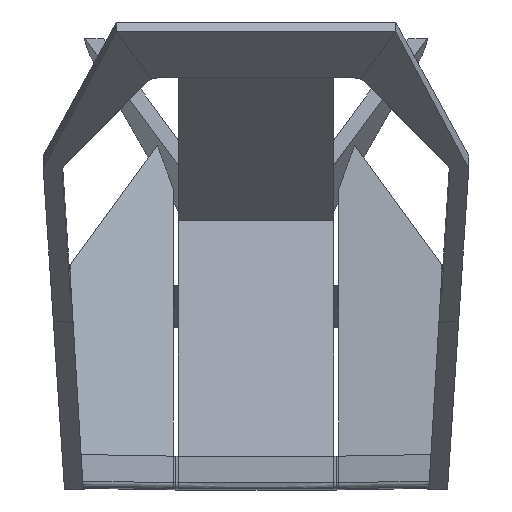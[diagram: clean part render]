
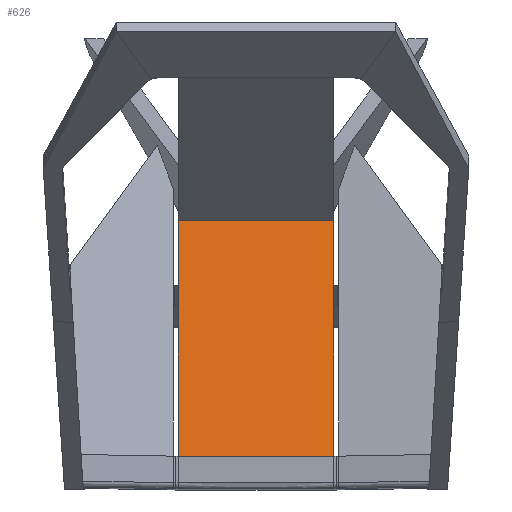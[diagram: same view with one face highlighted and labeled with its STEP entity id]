
A CAD part, top view. The second image highlights one B-rep face of the part: STEP entity #626.
In plain terms, the highlighted free-form (B-spline) face has degree [1, 1] with [2, 2] control points.
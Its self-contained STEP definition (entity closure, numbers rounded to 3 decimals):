
#626=ADVANCED_FACE('',(#749),#5292,.T.);
#749=FACE_OUTER_BOUND('',#872,.T.);
#872=EDGE_LOOP('',(#1412,#1413,#1414,#1415));
#1412=ORIENTED_EDGE('',*,*,#3620,.T.);
#1413=ORIENTED_EDGE('',*,*,#3621,.T.);
#1414=ORIENTED_EDGE('',*,*,#3622,.T.);
#1415=ORIENTED_EDGE('',*,*,#3623,.T.);
#1964=PCURVE('',#5292,#2516);
#1965=PCURVE('',#5292,#2517);
#1966=PCURVE('',#5292,#2518);
#1967=PCURVE('',#5292,#2519);
#2516=DEFINITIONAL_REPRESENTATION('',(#4606),#13068);
#2517=DEFINITIONAL_REPRESENTATION('',(#4608),#13068);
#2518=DEFINITIONAL_REPRESENTATION('',(#4610),#13068);
#2519=DEFINITIONAL_REPRESENTATION('',(#4612),#13068);
#3068=SURFACE_CURVE('',#4605,(#1964),.PCURVE_S1.);
#3069=SURFACE_CURVE('',#4607,(#1965),.PCURVE_S1.);
#3070=SURFACE_CURVE('',#4609,(#1966),.PCURVE_S1.);
#3071=SURFACE_CURVE('',#4611,(#1967),.PCURVE_S1.);
#3620=EDGE_CURVE('',#5176,#5175,#3068,.T.);
#3621=EDGE_CURVE('',#5175,#5173,#3069,.T.);
#3622=EDGE_CURVE('',#5173,#5174,#3070,.T.);
#3623=EDGE_CURVE('',#5174,#5176,#3071,.T.);
#4605=B_SPLINE_CURVE_WITH_KNOTS('',3,(#12950,#12951,#12952,#12953),
 .UNSPECIFIED.,.F.,.F.,(4,4),(-250.,0.),.UNSPECIFIED.);
#4606=B_SPLINE_CURVE_WITH_KNOTS('',3,(#12954,#12955,#12956,#12957),
 .UNSPECIFIED.,.F.,.F.,(4,4),(-250.,0.),.UNSPECIFIED.);
#4607=B_SPLINE_CURVE_WITH_KNOTS('',1,(#12958,#12959),.UNSPECIFIED.,.F.,
 .F.,(2,2),(-1008.51,-623.51),.UNSPECIFIED.);
#4608=B_SPLINE_CURVE_WITH_KNOTS('',3,(#12960,#12961,#12962,#12963),
 .UNSPECIFIED.,.F.,.F.,(4,4),(-1008.51,-623.51),
 .UNSPECIFIED.);
#4609=B_SPLINE_CURVE_WITH_KNOTS('',3,(#12964,#12965,#12966,#12967),
 .UNSPECIFIED.,.F.,.F.,(4,4),(0.,250.),.UNSPECIFIED.);
#4610=B_SPLINE_CURVE_WITH_KNOTS('',3,(#12968,#12969,#12970,#12971),
 .UNSPECIFIED.,.F.,.F.,(4,4),(0.,250.),.UNSPECIFIED.);
#4611=B_SPLINE_CURVE_WITH_KNOTS('',1,(#12972,#12973),.UNSPECIFIED.,.F.,
 .F.,(2,2),(-943.509,-558.509),.UNSPECIFIED.);
#4612=B_SPLINE_CURVE_WITH_KNOTS('',3,(#12974,#12975,#12976,#12977),
 .UNSPECIFIED.,.F.,.F.,(4,4),(-943.509,-558.509),
 .UNSPECIFIED.);
#5173=VERTEX_POINT('',#12946);
#5174=VERTEX_POINT('',#12947);
#5175=VERTEX_POINT('',#12948);
#5176=VERTEX_POINT('',#12949);
#5292=B_SPLINE_SURFACE_WITH_KNOTS('',1,1,((#12942,#12943),(#12944,#12945)),
 .UNSPECIFIED.,.F.,.F.,.F.,(2,2),(2,2),(-44.086,644.086),
(0.,550.001),.UNSPECIFIED.);
#12942=CARTESIAN_POINT('',(-206.086,-443.455,394.185));
#12943=CARTESIAN_POINT('',(-206.086,98.19,298.679));
#12944=CARTESIAN_POINT('',(482.086,-443.455,394.185));
#12945=CARTESIAN_POINT('',(482.086,98.19,298.679));
#12946=CARTESIAN_POINT('',(263.,9.557,314.307));
#12947=CARTESIAN_POINT('',(13.,9.557,314.307));
#12948=CARTESIAN_POINT('',(263.,-369.594,381.162));
#12949=CARTESIAN_POINT('',(13.,-369.594,381.162));
#12950=CARTESIAN_POINT('',(13.,-369.594,381.162));
#12951=CARTESIAN_POINT('',(96.333,-369.594,381.162));
#12952=CARTESIAN_POINT('',(179.667,-369.594,381.162));
#12953=CARTESIAN_POINT('',(263.,-369.594,381.162));
#12954=CARTESIAN_POINT('',(175.,75.));
#12955=CARTESIAN_POINT('',(258.333,75.));
#12956=CARTESIAN_POINT('',(341.667,75.));
#12957=CARTESIAN_POINT('',(425.,75.));
#12958=CARTESIAN_POINT('',(263.,-369.594,381.162));
#12959=CARTESIAN_POINT('',(263.,9.557,314.307));
#12960=CARTESIAN_POINT('',(425.,75.));
#12961=CARTESIAN_POINT('',(425.,203.333));
#12962=CARTESIAN_POINT('',(425.,331.667));
#12963=CARTESIAN_POINT('',(425.,460.));
#12964=CARTESIAN_POINT('',(263.,9.557,314.307));
#12965=CARTESIAN_POINT('',(179.667,9.557,314.307));
#12966=CARTESIAN_POINT('',(96.333,9.557,314.307));
#12967=CARTESIAN_POINT('',(13.,9.557,314.307));
#12968=CARTESIAN_POINT('',(425.,460.));
#12969=CARTESIAN_POINT('',(341.667,460.));
#12970=CARTESIAN_POINT('',(258.333,460.));
#12971=CARTESIAN_POINT('',(175.,460.));
#12972=CARTESIAN_POINT('',(13.,9.557,314.307));
#12973=CARTESIAN_POINT('',(13.,-369.594,381.162));
#12974=CARTESIAN_POINT('',(175.,460.));
#12975=CARTESIAN_POINT('',(175.,331.667));
#12976=CARTESIAN_POINT('',(175.,203.333));
#12977=CARTESIAN_POINT('',(175.,75.));
#13068=(
GEOMETRIC_REPRESENTATION_CONTEXT(2)
PARAMETRIC_REPRESENTATION_CONTEXT()
REPRESENTATION_CONTEXT('pspace','')
);
